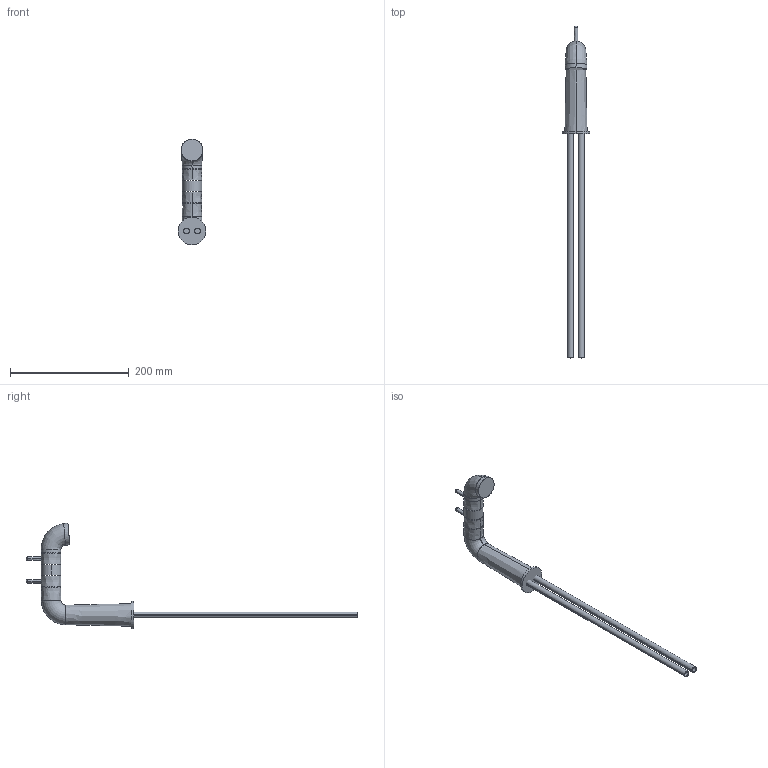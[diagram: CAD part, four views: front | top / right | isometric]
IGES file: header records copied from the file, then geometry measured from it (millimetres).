
Start section:  PTC IGES file: 73021_web.igs
Global section: file name: 73021_web.igs; native system: Creo Parametric by PTC Inc.; preprocessor: 2018190; author: jaje1; organization: Unknown; date: 20181127.152207; units: millimetre
Bounding box: 47 x 559.73 x 178.46 mm (x, y, z)
Surface area: 88147.6 mm2 (no closed solid volume)
Topology: 0 solids, 0 shells, 45 faces, 292 edges, 344 vertices
Faces by surface type: revolution 28, bspline 17
